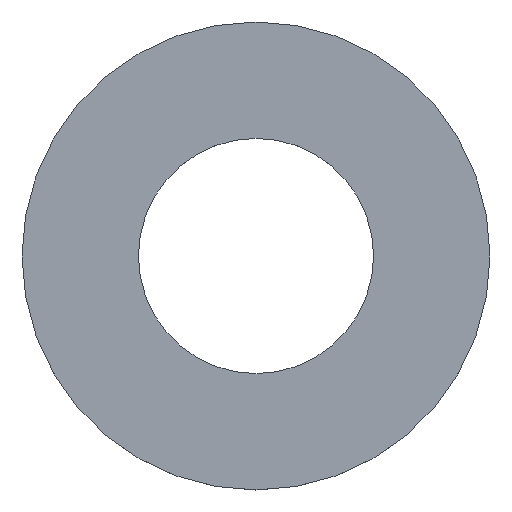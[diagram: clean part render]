
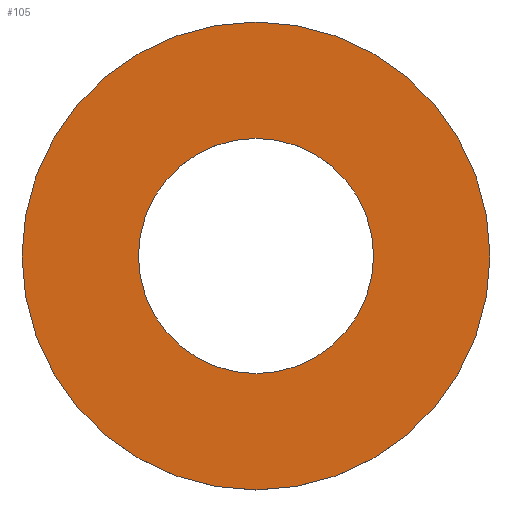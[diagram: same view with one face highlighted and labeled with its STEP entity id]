
A CAD part, top view. The second image highlights one B-rep face of the part: STEP entity #105.
In plain terms, the highlighted planar face has unit normal (0, 0, 1).
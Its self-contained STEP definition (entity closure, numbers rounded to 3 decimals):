
#21 = EDGE_CURVE('',#22,#22,#24,.T.);
#22 = VERTEX_POINT('',#23);
#23 = CARTESIAN_POINT('',(13.423,-7.75,4.45));
#24 = SURFACE_CURVE('',#25,(#30,#42),.PCURVE_S1.);
#25 = CIRCLE('',#26,4.1);
#26 = AXIS2_PLACEMENT_3D('',#27,#28,#29);
#27 = CARTESIAN_POINT('',(9.873,-5.7,4.45));
#28 = DIRECTION('',(-0.,0.,1.));
#29 = DIRECTION('',(0.866,-0.5,0.));
#30 = PCURVE('',#31,#36);
#31 = CYLINDRICAL_SURFACE('',#32,4.1);
#32 = AXIS2_PLACEMENT_3D('',#33,#34,#35);
#33 = CARTESIAN_POINT('',(9.873,-5.7,4.2));
#34 = DIRECTION('',(0.,0.,1.));
#35 = DIRECTION('',(0.866,-0.5,0.));
#36 = DEFINITIONAL_REPRESENTATION('',(#37),#41);
#37 = LINE('',#38,#39);
#38 = CARTESIAN_POINT('',(0.,0.25));
#39 = VECTOR('',#40,1.);
#40 = DIRECTION('',(1.,0.));
#41 = ( GEOMETRIC_REPRESENTATION_CONTEXT(2) 
PARAMETRIC_REPRESENTATION_CONTEXT() REPRESENTATION_CONTEXT('2D SPACE',''
  ) );
#42 = PCURVE('',#43,#48);
#43 = PLANE('',#44);
#44 = AXIS2_PLACEMENT_3D('',#45,#46,#47);
#45 = CARTESIAN_POINT('',(9.873,-5.7,4.45));
#46 = DIRECTION('',(0.,0.,1.));
#47 = DIRECTION('',(0.866,-0.5,0.));
#48 = DEFINITIONAL_REPRESENTATION('',(#49),#53);
#49 = CIRCLE('',#50,4.1);
#50 = AXIS2_PLACEMENT_2D('',#51,#52);
#51 = CARTESIAN_POINT('',(0.,0.));
#52 = DIRECTION('',(1.,0.));
#53 = ( GEOMETRIC_REPRESENTATION_CONTEXT(2) 
PARAMETRIC_REPRESENTATION_CONTEXT() REPRESENTATION_CONTEXT('2D SPACE',''
  ) );
#105 = ADVANCED_FACE('',(#106,#109),#43,.T.);
#106 = FACE_BOUND('',#107,.T.);
#107 = EDGE_LOOP('',(#108));
#108 = ORIENTED_EDGE('',*,*,#21,.T.);
#109 = FACE_BOUND('',#110,.T.);
#110 = EDGE_LOOP('',(#111));
#111 = ORIENTED_EDGE('',*,*,#112,.F.);
#112 = EDGE_CURVE('',#113,#113,#115,.T.);
#113 = VERTEX_POINT('',#114);
#114 = CARTESIAN_POINT('',(11.657,-6.73,4.45));
#115 = SURFACE_CURVE('',#116,(#121,#128),.PCURVE_S1.);
#116 = CIRCLE('',#117,2.06);
#117 = AXIS2_PLACEMENT_3D('',#118,#119,#120);
#118 = CARTESIAN_POINT('',(9.873,-5.7,4.45));
#119 = DIRECTION('',(-0.,0.,1.));
#120 = DIRECTION('',(0.866,-0.5,0.));
#121 = PCURVE('',#43,#122);
#122 = DEFINITIONAL_REPRESENTATION('',(#123),#127);
#123 = CIRCLE('',#124,2.06);
#124 = AXIS2_PLACEMENT_2D('',#125,#126);
#125 = CARTESIAN_POINT('',(0.,0.));
#126 = DIRECTION('',(1.,0.));
#127 = ( GEOMETRIC_REPRESENTATION_CONTEXT(2) 
PARAMETRIC_REPRESENTATION_CONTEXT() REPRESENTATION_CONTEXT('2D SPACE',''
  ) );
#128 = PCURVE('',#129,#134);
#129 = CYLINDRICAL_SURFACE('',#130,2.06);
#130 = AXIS2_PLACEMENT_3D('',#131,#132,#133);
#131 = CARTESIAN_POINT('',(9.873,-5.7,4.19));
#132 = DIRECTION('',(0.,0.,1.));
#133 = DIRECTION('',(0.866,-0.5,0.));
#134 = DEFINITIONAL_REPRESENTATION('',(#135),#139);
#135 = LINE('',#136,#137);
#136 = CARTESIAN_POINT('',(0.,0.26));
#137 = VECTOR('',#138,1.);
#138 = DIRECTION('',(1.,0.));
#139 = ( GEOMETRIC_REPRESENTATION_CONTEXT(2) 
PARAMETRIC_REPRESENTATION_CONTEXT() REPRESENTATION_CONTEXT('2D SPACE',''
  ) );
